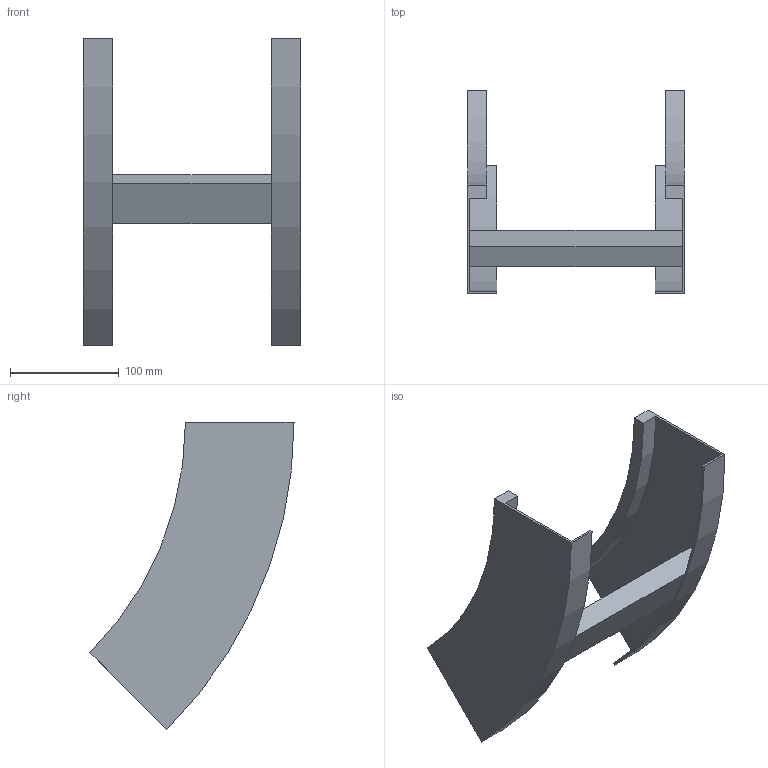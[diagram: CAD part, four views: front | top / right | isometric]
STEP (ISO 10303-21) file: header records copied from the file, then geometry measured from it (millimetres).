
FILE_DESCRIPTION (( 'STEP AP214' ), '1' );
FILE_NAME ('B2X31B3D200XX.step', '2025-03-20T10:04:57', ( '' ), ( '' ), 'SwSTEP 2.0', 'SolidWorks 2023', '' );
FILE_SCHEMA (( 'AUTOMOTIVE_DESIGN' ));
Length unit declared in the file: millimetre
Products named in the file (3): TRAVERSINO_200; B2X31B3D200XX; B2_LONGH.SALITA_45°_H100_R300
Assembly tree (3 placements, depth 2):
  B2X31B3D200XX
    B2_LONGH.SALITA_45°_H100_R300  x2
    TRAVERSINO_200
Bounding box: 200 x 187.87 x 282.84 mm (x, y, z)
Volume: 392340.6 mm3; surface area: 185977.5 mm2
Topology: 3 solids, 3 shells, 26 faces, 60 edges, 40 vertices
Faces by surface type: plane 18, cylinder 8
Entity records: 544 total; most frequent: DIRECTION 88, CARTESIAN_POINT 82, ORIENTED_EDGE 72, EDGE_CURVE 36, AXIS2_PLACEMENT_3D 30, LINE 28, VECTOR 28, VERTEX_POINT 24
